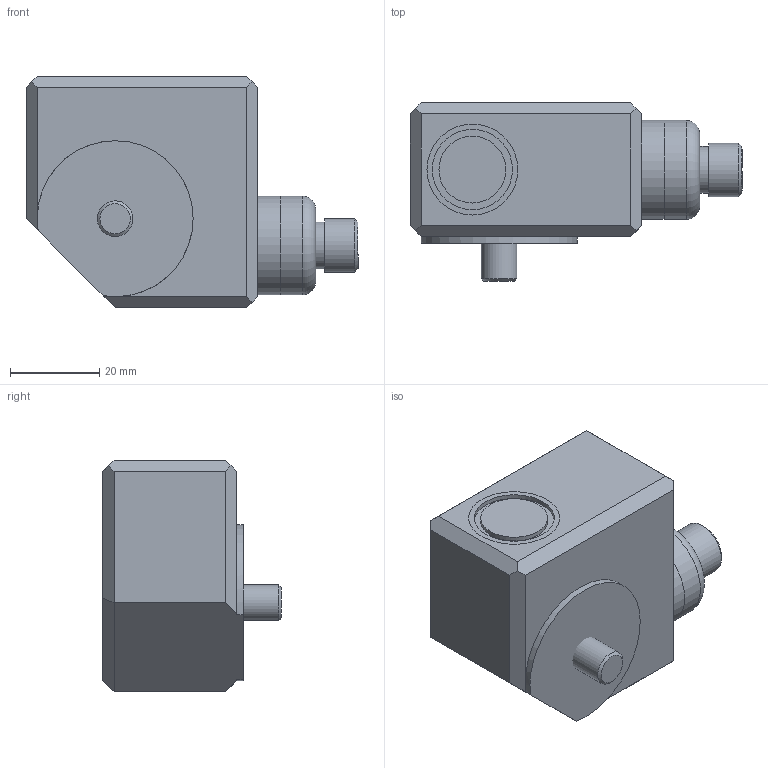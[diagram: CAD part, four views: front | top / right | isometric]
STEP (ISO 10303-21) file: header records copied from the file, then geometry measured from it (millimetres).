
FILE_DESCRIPTION(/* description */ (''),/* implementation_level */ '2;1');
FILE_NAME(/* name */ 'Z:\Engineering\Drawings\3D Library\Assemblies\Website\420 Triaxial Velocity\HS-473XXX6608.stp',/* time_stamp */ '2023-05-09T21:39:46+01:00',/* author */ ('Ricardo.Peneda'),/* organization */ (''),/* preprocessor_version */ 'ST-DEVELOPER v18.1',/* originating_system */ 'Autodesk Inventor 2021',/* authorisation */ '');
FILE_SCHEMA (('AUTOMOTIVE_DESIGN { 1 0 10303 214 3 1 1 }'));
Length unit declared in the file: inch
Products named in the file (1): HS-473XXX6608_Shrinkwrap_1
Bounding box: 74.5 x 40 x 52 mm (x, y, z)
Volume: 55460.2 mm3; surface area: 21655.4 mm2
Topology: 5 solids, 5 shells, 80 faces, 198 edges, 145 vertices
Faces by surface type: plane 53, cylinder 23, cone 3, torus 1
Full cylindrical faces by diameter (mm): 6 x1, 6.4 x1, 8 x1, 9.4 x1, 10.5 x1, 11 x1, 12 x1, 15 x2, 18 x3, 19.95 x1, 20 x3, 20.4 x4, 22.2 x2
Entity records: 2601 total; most frequent: DIRECTION 460, CARTESIAN_POINT 424, ORIENTED_EDGE 396, EDGE_CURVE 198, AXIS2_PLACEMENT_3D 181, VERTEX_POINT 145, EDGE_LOOP 101, CIRCLE 100
